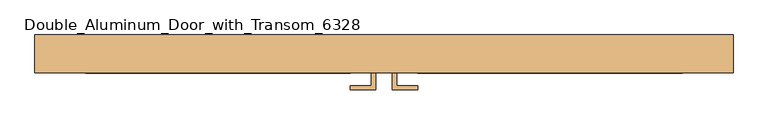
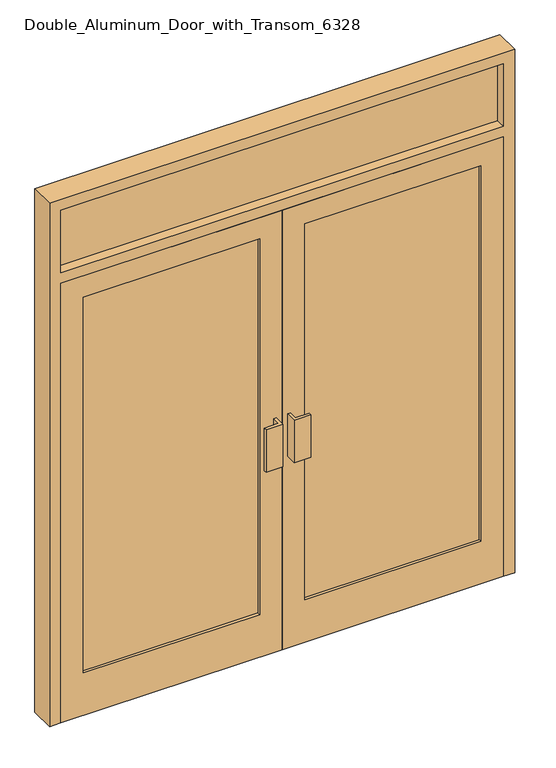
"""IFC4 building model written with IfcOpenShell, lengths in millimetres: door geometry."""

from ifc_helpers import new_model, si_unit, frame, origin, place, context, project, spatial, polyline, outline, extrude, source, transform, mapped, element, save


def double_aluminum_door_with_transom_6328_639ab891(model_context):
    return source(origin(), model_context, "Body", "SweptSolid", [
        extrude(outline(polyline([(898.4, -17.85), (898.4, -36.9), (101.6, -36.9), (101.6, -17.85), (898.4, -17.85)])), frame((0.0, 0.0, 203.2), z_axis=(0.0, 0.0, 1.0), x_axis=(1.0, 0.0, 0.0)), (0.0, 0.0, 1.0), 1795.2),
        extrude(outline(polyline([(2100.0, 0.0), (2100.0, -1000.0), (0.0, -1000.0), (0.0, 0.0), (2100.0, 0.0)]), holes=[polyline([(1998.4, -898.4), (1998.4, -101.6), (203.2, -101.6), (203.2, -898.4), (1998.4, -898.4)])]), frame((0.0, -49.6, 0.0), z_axis=(0.0, 1.0, 0.0), x_axis=(0.0, 0.0, 1.0)), (0.0, 0.0, 1.0), 44.45),
        extrude(outline(polyline([(50.8, -5.15), (50.8, 20.25), (949.2, 20.25), (949.2, -5.15), (50.8, -5.15)])), frame((0.0, 0.0, 990.6), z_axis=(0.0, 0.0, 1.0), x_axis=(1.0, 0.0, 0.0)), (0.0, 0.0, 1.0), 25.4),
        extrude(outline(polyline([(25.4, -100.4), (25.4, -49.6), (38.1, -49.6), (38.1, -87.7), (101.6, -87.7), (101.6, -100.4), (25.4, -100.4)])), frame((0.0, 0.0, 914.4), z_axis=(0.0, 0.0, 1.0), x_axis=(1.0, 0.0, 0.0)), (0.0, 0.0, 1.0), 203.2),
        extrude(outline(polyline([(2100.0, 0.0), (0.0, 0.0), (0.0, 1000.0), (2100.0, 1000.0), (2100.0, 0.0)]), holes=[polyline([(203.2, 898.4), (203.2, 101.6), (1998.4, 101.6), (1998.4, 898.4), (203.2, 898.4)])]), frame((0.0, -49.6, 0.0), z_axis=(0.0, 1.0, 0.0), x_axis=(0.0, 0.0, 1.0)), (0.0, 0.0, 1.0), 44.45),
        extrude(outline(polyline([(-50.8, -5.15), (-949.2, -5.15), (-949.2, 20.25), (-50.8, 20.25), (-50.8, -5.15)])), frame((0.0, 0.0, 990.6), z_axis=(0.0, 0.0, 1.0), x_axis=(1.0, 0.0, 0.0)), (0.0, 0.0, 1.0), 25.4),
        extrude(outline(polyline([(-25.4, -100.4), (-101.6, -100.4), (-101.6, -87.7), (-38.1, -87.7), (-38.1, -49.6), (-25.4, -49.6), (-25.4, -100.4)])), frame((0.0, 0.0, 914.4), z_axis=(0.0, 0.0, 1.0), x_axis=(1.0, 0.0, 0.0)), (0.0, 0.0, 1.0), 203.2),
        extrude(outline(polyline([(-101.6, -17.85), (-101.6, -36.9), (-898.4, -36.9), (-898.4, -17.85), (-101.6, -17.85)])), frame((0.0, 0.0, 203.2), z_axis=(0.0, 0.0, 1.0), x_axis=(1.0, 0.0, 0.0)), (0.0, 0.0, 1.0), 1795.2),
        extrude(outline(polyline([(355.6, 20.25), (50.8, 20.25), (50.8, 32.95), (355.6, 32.95), (355.6, 20.25)])), frame((0.0, 0.0, 952.5), z_axis=(0.0, 0.0, 1.0), x_axis=(1.0, 0.0, 0.0)), (0.0, 0.0, 1.0), 101.6),
        extrude(outline(polyline([(1000.0, 20.25), (1000.0, -5.15), (-1000.0, -5.15), (-1000.0, 20.25), (1000.0, 20.25)])), frame((0.0, 0.0, 2150.8), z_axis=(0.0, 0.0, 1.0), x_axis=(1.0, 0.0, 0.0)), (0.0, 0.0, 1.0), 298.4),
        extrude(outline(polyline([(-355.6, 20.25), (-355.6, 32.95), (-50.8, 32.95), (-50.8, 20.25), (-355.6, 20.25)])), frame((0.0, 0.0, 952.5), z_axis=(0.0, 0.0, 1.0), x_axis=(1.0, 0.0, 0.0)), (0.0, 0.0, 1.0), 101.6),
        extrude(outline(polyline([(2500.0, 1050.8), (2500.0, -1050.8), (0.0, -1050.8), (0.0, -1000.0), (2100.0, -1000.0), (2100.0, 1000.0), (0.0, 1000.0), (0.0, 1050.8), (2500.0, 1050.8)]), holes=[polyline([(2150.8, 1000.0), (2150.8, -1000.0), (2449.2, -1000.0), (2449.2, 1000.0), (2150.8, 1000.0)])]), frame((0.0, -49.6, 0.0), z_axis=(0.0, 1.0, 0.0), x_axis=(0.0, 0.0, 1.0)), (0.0, 0.0, 1.0), 114.3),
    ])


if __name__ == "__main__":
    model = new_model("IFC4")
    model_context = context("Model", 3, world=origin())
    ifc_project = project(units=[si_unit("LENGTHUNIT", "METRE", prefix="MILLI")], contexts=[model_context])
    site = spatial("IfcSite", under=ifc_project)
    building = spatial("IfcBuilding", under=site)
    placement = place(None, origin())
    double_aluminum_door_with_transom_6328_shape = double_aluminum_door_with_transom_6328_639ab891(model_context)
    element("IfcDoor", 1, ObjectType="Double_Aluminum_Door_with_Transom_6328 : 6'-0\" x 7'-0\" x 9'-0\"H.", at=placement, inside=building, context=model_context, shape_type="MappedRepresentation", body=[
        mapped(double_aluminum_door_with_transom_6328_shape, transform((0.0, 0.0, 0.0), x_axis=(1.0, 0.0, 0.0), y_axis=(0.0, 1.0, 0.0), z_axis=(0.0, 0.0, 1.0))),
    ])
    save(model, "model.ifc")
